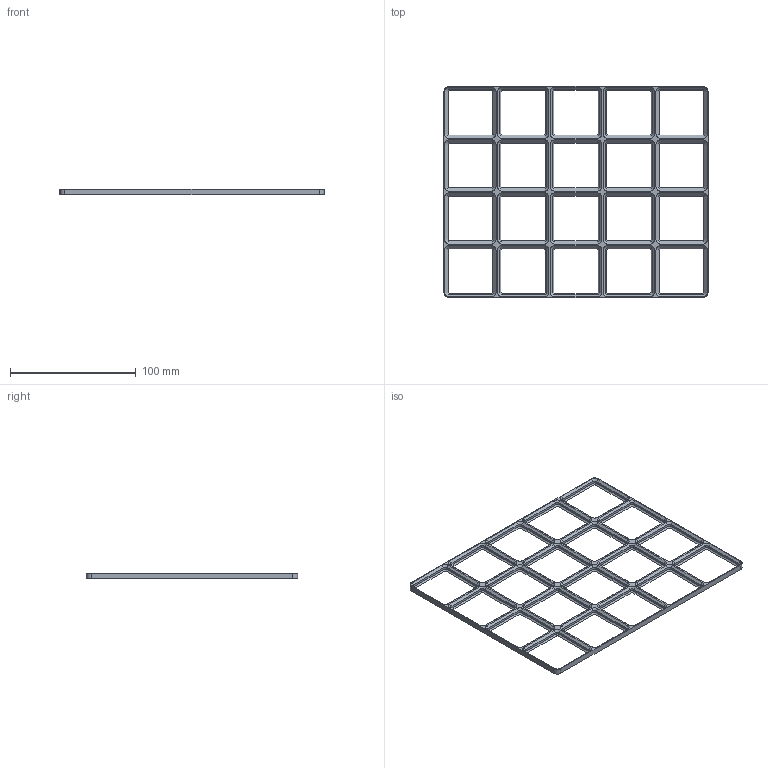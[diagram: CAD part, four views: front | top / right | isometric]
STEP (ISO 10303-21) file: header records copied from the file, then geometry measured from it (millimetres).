
FILE_DESCRIPTION(('Open CASCADE Model'),'2;1');
FILE_NAME('Open CASCADE Shape Model','2026-11-03T16:31:03',('Author'),( 'Open CASCADE'),'Open CASCADE STEP processor 8.0','build123d', 'Unknown');
FILE_SCHEMA(('AUTOMOTIVE_DESIGN { 1 0 10303 214 1 1 1 1 }'));
Length unit declared in the file: millimetre
Products named in the file (1): COMPOUND
Bounding box: 210 x 168 x 4.5 mm (x, y, z)
Volume: 29261.6 mm3; surface area: 32236.6 mm2
Topology: 1 solids, 1 shells, 490 faces, 1144 edges, 656 vertices
Faces by surface type: plane 246, cone 160, cylinder 84
Entity records: 27522 total; most frequent: CARTESIAN_POINT 5667, DIRECTION 3694, ORIENTED_EDGE 2288, PCURVE 2288, DEFINITIONAL_REPRESENTATION 2288, LINE 1896, VECTOR 1896, EDGE_CURVE 1144
